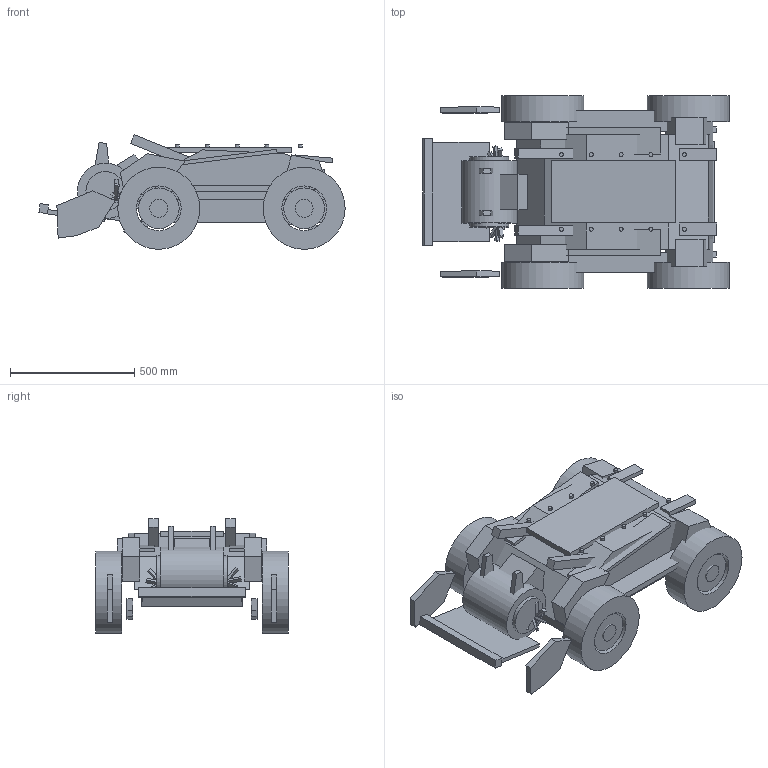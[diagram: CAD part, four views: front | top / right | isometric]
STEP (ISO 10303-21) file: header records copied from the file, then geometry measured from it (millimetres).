
FILE_DESCRIPTION(('Open CASCADE Model'),'2;1');
FILE_NAME('Open CASCADE Shape Model','2026-09-10T19:19:09',('Author'),( 'Open CASCADE'),'Open CASCADE STEP processor 7.9','Open CASCADE 7.9' ,'Unknown');
FILE_SCHEMA(('AUTOMOTIVE_DESIGN { 1 0 10303 214 1 1 1 1 }'));
Length unit declared in the file: millimetre
Products named in the file (68): Open CASCADE STEP translator 7.9 1; Open CASCADE STEP translator 7.9 1.1; Open CASCADE STEP translator 7.9 1.2; Open CASCADE STEP translator 7.9 1.3; Open CASCADE STEP translator 7.9 1.4; Open CASCADE STEP translator 7.9 1.5; Open CASCADE STEP translator 7.9 1.6; Open CASCADE STEP translator 7.9 1.7; Open CASCADE STEP translator 7.9 1.8; Open CASCADE STEP translator 7.9 1.9; Open CASCADE STEP translator 7.9 1.10; Open CASCADE STEP translator 7.9 1.11; Open CASCADE STEP translator 7.9 1.12; Open CASCADE STEP translator 7.9 1.13; Open CASCADE STEP translator 7.9 1.14; Open CASCADE STEP translator 7.9 1.15; Open CASCADE STEP translator 7.9 1.16; Open CASCADE STEP translator 7.9 1.17; Open CASCADE STEP translator 7.9 1.18; Open CASCADE STEP translator 7.9 1.19; Open CASCADE STEP translator 7.9 1.20; Open CASCADE STEP translator 7.9 1.21; Open CASCADE STEP translator 7.9 1.22; Open CASCADE STEP translator 7.9 1.23; Open CASCADE STEP translator 7.9 1.24; Open CASCADE STEP translator 7.9 1.25; Open CASCADE STEP translator 7.9 1.26; Open CASCADE STEP translator 7.9 1.27; Open CASCADE STEP translator 7.9 1.28; Open CASCADE STEP translator 7.9 1.29; Open CASCADE STEP translator 7.9 1.30; Open CASCADE STEP translator 7.9 1.31; Open CASCADE STEP translator 7.9 1.32; Open CASCADE STEP translator 7.9 1.33; Open CASCADE STEP translator 7.9 1.34; Open CASCADE STEP translator 7.9 1.35; Open CASCADE STEP translator 7.9 1.36; Open CASCADE STEP translator 7.9 1.37; Open CASCADE STEP translator 7.9 1.38; Open CASCADE STEP translator 7.9 1.39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
Assembly tree (67 placements, depth 2):
  Open CASCADE STEP translator 7.9 1
    Open CASCADE STEP translator 7.9 1.1
    Open CASCADE STEP translator 7.9 1.2
    Open CASCADE STEP translator 7.9 1.3
    Open CASCADE STEP translator 7.9 1.4
    Open CASCADE STEP translator 7.9 1.5
    Open CASCADE STEP translator 7.9 1.6
    Open CASCADE STEP translator 7.9 1.7
    Open CASCADE STEP translator 7.9 1.8
    Open CASCADE STEP translator 7.9 1.9
    Open CASCADE STEP translator 7.9 1.10
    Open CASCADE STEP translator 7.9 1.11
    Open CASCADE STEP translator 7.9 1.12
    Open CASCADE STEP translator 7.9 1.13
    Open CASCADE STEP translator 7.9 1.14
    Open CASCADE STEP translator 7.9 1.15
    Open CASCADE STEP translator 7.9 1.16
    Open CASCADE STEP translator 7.9 1.17
    Open CASCADE STEP translator 7.9 1.18
    Open CASCADE STEP translator 7.9 1.19
    Open CASCADE STEP translator 7.9 1.20
    Open CASCADE STEP translator 7.9 1.21
    Open CASCADE STEP translator 7.9 1.22
    Open CASCADE STEP translator 7.9 1.23
    Open CASCADE STEP translator 7.9 1.24
    Open CASCADE STEP translator 7.9 1.25
    Open CASCADE STEP translator 7.9 1.26
    Open CASCADE STEP translator 7.9 1.27
    Open CASCADE STEP translator 7.9 1.28
    Open CASCADE STEP translator 7.9 1.29
    Open CASCADE STEP translator 7.9 1.30
    Open CASCADE STEP translator 7.9 1.31
    Open CASCADE STEP translator 7.9 1.32
    Open CASCADE STEP translator 7.9 1.33
    Open CASCADE STEP translator 7.9 1.34
    Open CASCADE STEP translator 7.9 1.35
    Open CASCADE STEP translator 7.9 1.36
    Open CASCADE STEP translator 7.9 1.37
    Open CASCADE STEP translator 7.9 1.38
    Open CASCADE STEP translator 7.9 1.39
    Open CASCADE STEP translator 7.9 1.40
    Open CASCADE STEP translator 7.9 1.41
    Open CASCADE STEP translator 7.9 1.42
    Open CASCADE STEP translator 7.9 1.43
    Open CASCADE STEP translator 7.9 1.44
    Open CASCADE STEP translator 7.9 1.45
    Open CASCADE STEP translator 7.9 1.46
    Open CASCADE STEP translator 7.9 1.47
    Open CASCADE STEP translator 7.9 1.48
    Open CASCADE STEP translator 7.9 1.49
    Open CASCADE STEP translator 7.9 1.50
    Open CASCADE STEP translator 7.9 1.51
    Open CASCADE STEP translator 7.9 1.52
    Open CASCADE STEP translator 7.9 1.53
    Open CASCADE STEP translator 7.9 1.54
    Open CASCADE STEP translator 7.9 1.55
    Open CASCADE STEP translator 7.9 1.56
    Open CASCADE STEP translator 7.9 1.57
    Open CASCADE STEP translator 7.9 1.58
    Open CASCADE STEP translator 7.9 1.59
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Bounding box: 1232.66 x 775 x 461.04 mm (x, y, z)
Volume: 150633992.9 mm3; surface area: 6161017.4 mm2
Topology: 67 solids, 67 shells, 348 faces, 642 edges, 428 vertices
Faces by surface type: plane 314, cylinder 34
Full cylindrical faces by diameter (mm): 16 x10, 56 x4, 72 x4, 124 x1, 156 x2, 164 x4, 180 x4, 224 x1, 330 x4
Entity records: 17940 total; most frequent: DIRECTION 2826, CARTESIAN_POINT 2770, LINE 1790, VECTOR 1790, ORIENTED_EDGE 1284, PCURVE 1284, DEFINITIONAL_REPRESENTATION 1284, EDGE_CURVE 642
